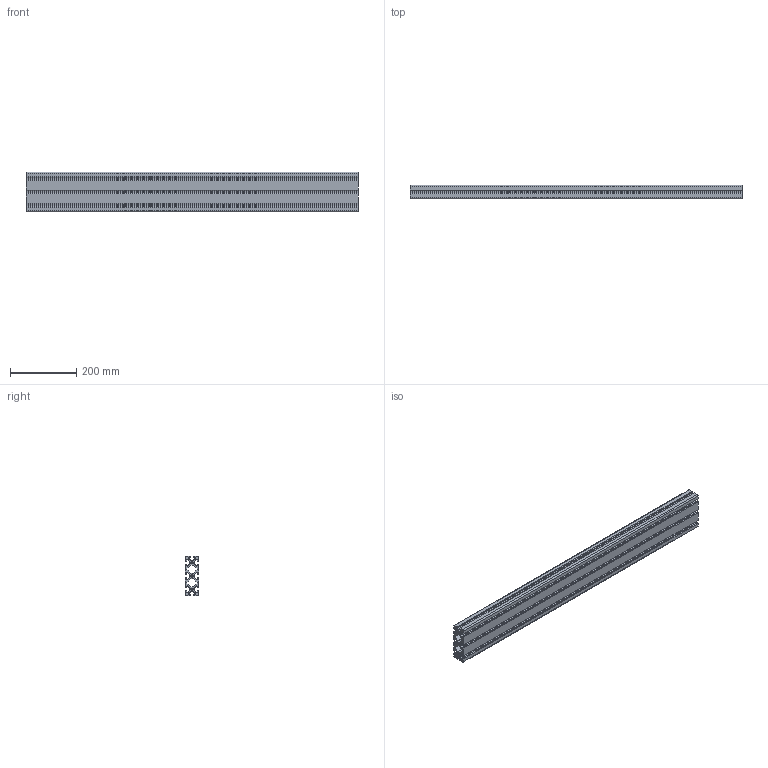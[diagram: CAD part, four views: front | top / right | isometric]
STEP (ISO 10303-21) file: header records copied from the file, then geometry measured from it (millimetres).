
FILE_DESCRIPTION (( 'STEP AP203' ), '1' );
FILE_NAME ('10381_PRO_120x40.STEP', '2016-03-02T09:07:09', ( '' ), ( '' ), 'SwSTEP 2.0', 'SolidWorks 2015', '' );
FILE_SCHEMA (( 'CONFIG_CONTROL_DESIGN' ));
Length unit declared in the file: millimetre
Products named in the file (1): 10381_PRO_120x40
Bounding box: 1000 x 40 x 120 mm (x, y, z)
Volume: 2443426.9 mm3; surface area: 852262.1 mm2
Topology: 1 solids, 1 shells, 174 faces, 516 edges, 344 vertices
Faces by surface type: cylinder 108, plane 66
Entity records: 6013 total; most frequent: DIRECTION 1082, CARTESIAN_POINT 1035, ORIENTED_EDGE 1032, EDGE_CURVE 516, AXIS2_PLACEMENT_3D 391, VERTEX_POINT 344, LINE 300, VECTOR 300
